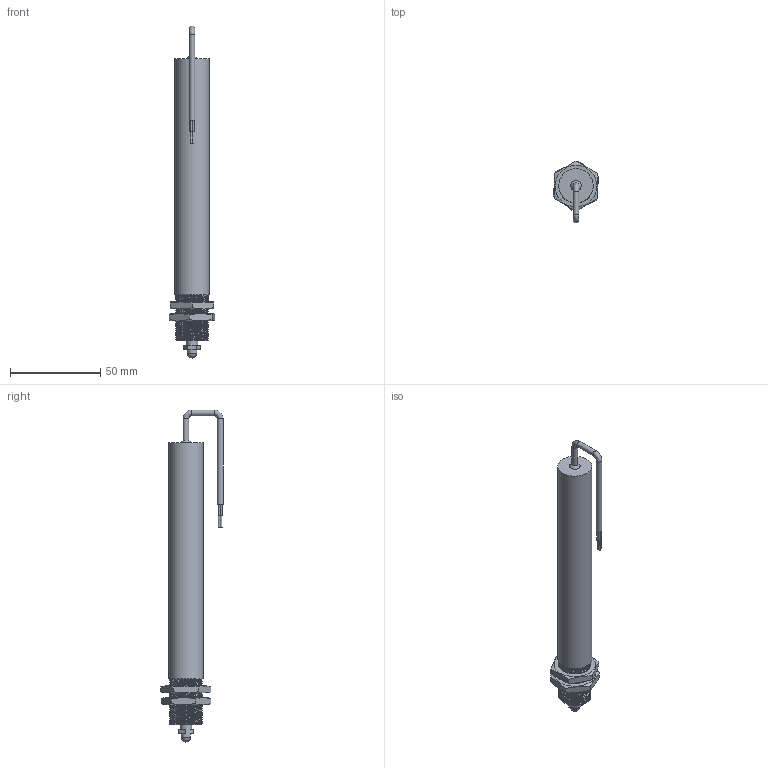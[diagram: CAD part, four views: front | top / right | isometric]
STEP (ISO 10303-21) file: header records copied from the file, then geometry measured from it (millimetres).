
FILE_DESCRIPTION(/* description */ ('ILPS-18S-075-A-00-YY-A SW'),/* implementation_level */ '2;1');
FILE_NAME(/* name */ 'ILPS-18S-075-A-00-YY-A SW.stp',/* time_stamp */ '2026-09-01T08:34:10-04:00',/* author */ ('Cameron'),/* organization */ ('HGSI'),/* preprocessor_version */ 'ST-DEVELOPER v20.1',/* originating_system */ 'Autodesk Inventor 2027',/* authorisation */ '');
FILE_SCHEMA (('AUTOMOTIVE_DESIGN { 1 0 10303 214 3 1 1 }'));
Length unit declared in the file: inch
Products named in the file (5): ILPS-18S-075-A-00-YY-A SW; ILPS-18S-075 Spoiler; Hex Nut; #12360; ILPS-18S-075-A-00-YY-A Body SW
Assembly tree (5 placements, depth 2):
  ILPS-18S-075-A-00-YY-A SW
    ILPS-18S-075 Spoiler
    Hex Nut  x2
    #12360
    ILPS-18S-075-A-00-YY-A Body SW
Bounding box: 25.42 x 34.49 x 184.34 mm (x, y, z)
Volume: 46193.2 mm3; surface area: 20253.3 mm2
Topology: 7 solids, 7 shells, 139 faces, 335 edges, 234 vertices
Faces by surface type: cylinder 74, plane 46, bspline 12, cone 4, torus 2, sphere 1
Full cylindrical faces by diameter (mm): 0.635 x4, 0.762 x4, 1.905 x1, 2.845 x3, 3.175 x4, 5.08 x1, 6.35 x2, 16.891 x24, 18 x25, 19.05 x1
Entity records: 12339 total; most frequent: CARTESIAN_POINT 9252, ORIENTED_EDGE 600, DIRECTION 471, EDGE_CURVE 300, VERTEX_POINT 198, AXIS2_PLACEMENT_3D 184, EDGE_LOOP 146, B_SPLINE_CURVE_WITH_KNOTS 128
